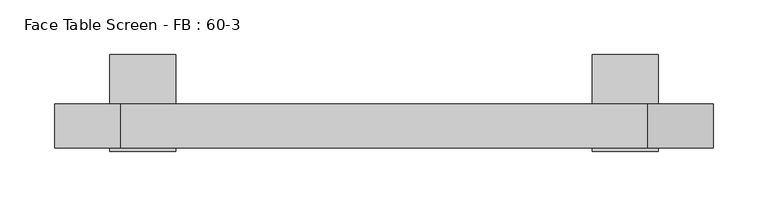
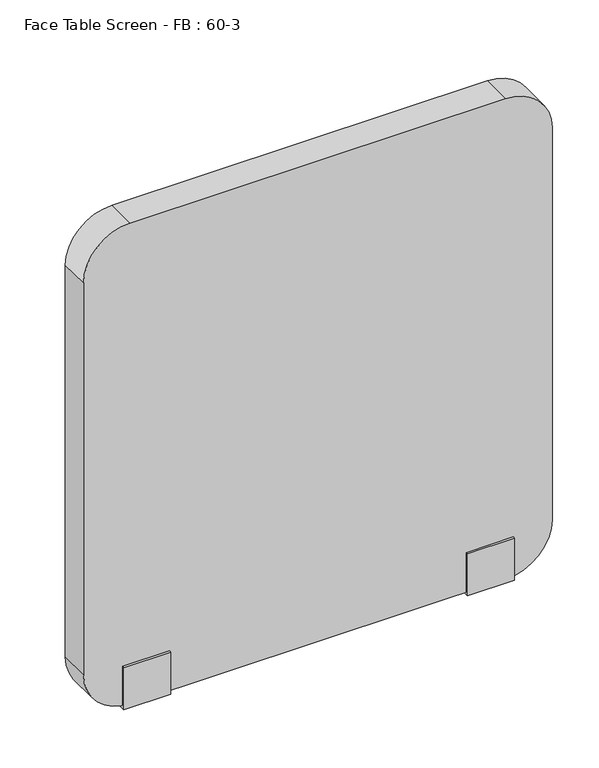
"""IFC4 building model written with IfcOpenShell, lengths in millimetres: furniture geometry, Face Table Screen - FB : 60-3."""

from ifc_helpers import new_model, si_unit, point, frame, frame_2d, origin, place, context, project, spatial, polyline, circle_curve, trimmed, segment, composite_curve, outline, extrude, source, transform, mapped, element, save


def face_table_screen_fb_60_3_2067e8eb(model_context):
    return source(origin(), model_context, "Body", "SweptSolid", [
        extrude(outline(polyline([(-42.9999947, -156.0), (-42.9999997, -99.0433898), (-40.0, -99.0433898), (-40.0, -153.0), (0.0, -153.0), (0.0, -22.0), (45.0, -22.0), (45.0, -25.0433898), (3.0000062, -25.0433898), (2.9999947, -156.0), (-42.9999947, -156.0)])), frame((209.9863751, 0.0, 0.0), z_axis=(1.0, 0.0, 0.0), x_axis=(0.0, 1.0, 0.0)), (0.0, 0.0, 1.0), 60.0),
        extrude(outline(polyline([(-42.9999947, -156.0), (-42.9999997, -99.0433898), (-40.0, -99.0433898), (-40.0, -153.0), (0.0, -153.0), (0.0, -22.0), (45.0, -22.0), (45.0, -25.0433898), (3.0000062, -25.0433898), (2.9999947, -156.0), (-42.9999947, -156.0)])), frame((-230.0136249, 0.0, 0.0), z_axis=(1.0, 0.0, 0.0), x_axis=(0.0, 1.0, 0.0)), (0.0, 0.0, 1.0), 60.0),
        extrude(outline(composite_curve([segment(polyline([(497.0, 259.9863751), (497.0, -220.0136249)]), True, "CONTINUOUS"), segment(trimmed(circle_curve(frame_2d((437.0, -220.0136249)), 60.0), [point((497.0, -220.0136249))], [point((437.0, -280.0136249))], False, "CARTESIAN"), True, "CONTINUOUS"), segment(polyline([(437.0, -280.0136249), (-93.0, -280.0136249)]), True, "CONTINUOUS"), segment(trimmed(circle_curve(frame_2d((-93.0, -220.0136249)), 60.0), [point((-93.0, -280.0136249))], [point((-153.0, -220.0136249))], False, "CARTESIAN"), True, "CONTINUOUS"), segment(polyline([(-153.0, -220.0136249), (-153.0, 259.9863751)]), True, "CONTINUOUS"), segment(trimmed(circle_curve(frame_2d((-93.0, 259.9863751)), 60.0), [point((-153.0, 259.9863751))], [point((-93.0, 319.9863751))], False, "CARTESIAN"), True, "CONTINUOUS"), segment(polyline([(-93.0, 319.9863751), (437.0, 319.9863751)]), True, "CONTINUOUS"), segment(trimmed(circle_curve(frame_2d((437.0, 259.9863751)), 60.0), [point((437.0, 319.9863751))], [point((497.0, 259.9863751))], False, "CARTESIAN"), True, "CONTINUOUS")], self_intersect=False)), frame((0.0, -40.0, 0.0), z_axis=(0.0, 1.0, 0.0), x_axis=(0.0, 0.0, 1.0)), (0.0, 0.0, 1.0), 40.0),
    ])


if __name__ == "__main__":
    model = new_model("IFC4")
    model_context = context("Model", 3, world=origin())
    ifc_project = project(units=[si_unit("LENGTHUNIT", "METRE", prefix="MILLI")], contexts=[model_context])
    site = spatial("IfcSite", under=ifc_project)
    building = spatial("IfcBuilding", under=site)
    placement = place(None, origin())
    face_table_screen_fb_60_3_shape = face_table_screen_fb_60_3_2067e8eb(model_context)
    element("IfcFurniture", 1, ObjectType="Face Table Screen - FB : 60-3", at=placement, inside=building, context=model_context, shape_type="MappedRepresentation", body=[
        mapped(face_table_screen_fb_60_3_shape, transform((0.0, 0.0, 0.0), x_axis=(1.0, 0.0, 0.0), y_axis=(0.0, 1.0, 0.0), z_axis=(0.0, 0.0, 1.0))),
    ])
    save(model, "model.ifc")
